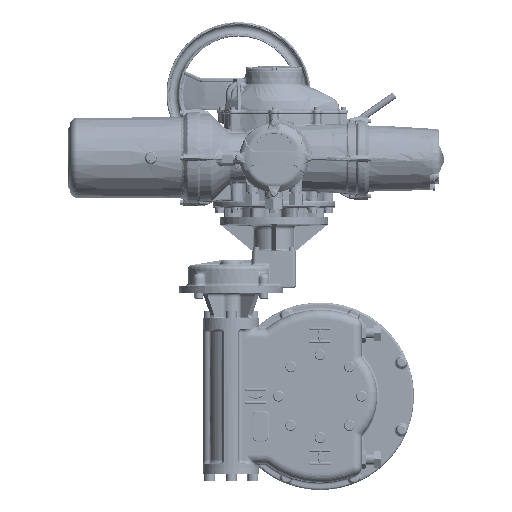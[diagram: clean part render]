
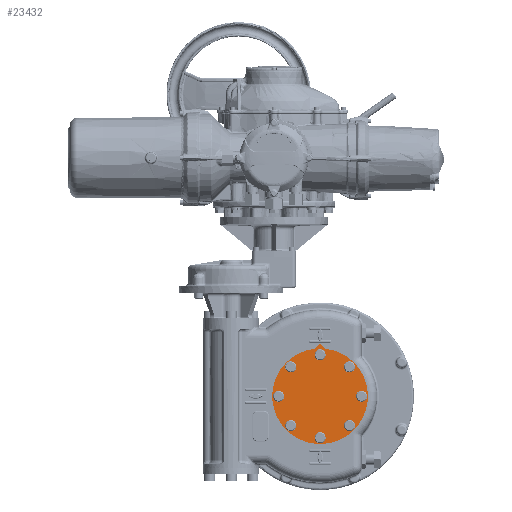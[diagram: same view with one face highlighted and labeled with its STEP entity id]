
A CAD part, front view. The second image highlights one B-rep face of the part: STEP entity #23432.
In plain terms, the highlighted planar face has unit normal (0, -1, 0).
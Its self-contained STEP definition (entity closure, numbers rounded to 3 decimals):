
#23432 = ADVANCED_FACE( '', ( #49136, #49137, #49138, #49139, #49140, #49141, #49142, #49143, #49144 ), #49145, .F. );
#49136 = FACE_BOUND( '', #377415, .T. );
#49137 = FACE_BOUND( '', #377416, .T. );
#49138 = FACE_BOUND( '', #377417, .T. );
#49139 = FACE_BOUND( '', #377418, .T. );
#49140 = FACE_BOUND( '', #377419, .T. );
#49141 = FACE_BOUND( '', #377420, .T. );
#49142 = FACE_BOUND( '', #377421, .T. );
#49143 = FACE_BOUND( '', #377422, .T. );
#49144 = FACE_OUTER_BOUND( '', #377423, .T. );
#49145 = PLANE( '', #377424 );
#377415 = EDGE_LOOP( '', ( #507896 ) );
#377416 = EDGE_LOOP( '', ( #507897 ) );
#377417 = EDGE_LOOP( '', ( #507898 ) );
#377418 = EDGE_LOOP( '', ( #507899 ) );
#377419 = EDGE_LOOP( '', ( #507900 ) );
#377420 = EDGE_LOOP( '', ( #507901 ) );
#377421 = EDGE_LOOP( '', ( #507902 ) );
#377422 = EDGE_LOOP( '', ( #507903 ) );
#377423 = EDGE_LOOP( '', ( #507904, #507905, #507906 ) );
#377424 = AXIS2_PLACEMENT_3D( '', #507907, #507908, #507909 );
#507896 = ORIENTED_EDGE( '', *, *, #546220, .F. );
#507897 = ORIENTED_EDGE( '', *, *, #522055, .F. );
#507898 = ORIENTED_EDGE( '', *, *, #544247, .F. );
#507899 = ORIENTED_EDGE( '', *, *, #544518, .F. );
#507900 = ORIENTED_EDGE( '', *, *, #523194, .F. );
#507901 = ORIENTED_EDGE( '', *, *, #534531, .F. );
#507902 = ORIENTED_EDGE( '', *, *, #546658, .F. );
#507903 = ORIENTED_EDGE( '', *, *, #545641, .F. );
#507904 = ORIENTED_EDGE( '', *, *, #536386, .F. );
#507905 = ORIENTED_EDGE( '', *, *, #543410, .F. );
#507906 = ORIENTED_EDGE( '', *, *, #546659, .F. );
#507907 = CARTESIAN_POINT( '', ( 127.755, -70.25, -660.69 ) );
#507908 = DIRECTION( '', ( 0., 1., 0. ) );
#507909 = DIRECTION( '', ( 0., 0., -1. ) );
#522055 = EDGE_CURVE( '', #552772, #552772, #552773, .T. );
#523194 = EDGE_CURVE( '', #554751, #554751, #554752, .T. );
#534531 = EDGE_CURVE( '', #572584, #572584, #572585, .T. );
#536386 = EDGE_CURVE( '', #575204, #575206, #575207, .T. );
#543410 = EDGE_CURVE( '', #584056, #575204, #584058, .T. );
#544247 = EDGE_CURVE( '', #585026, #585026, #585027, .T. );
#544518 = EDGE_CURVE( '', #585330, #585330, #585331, .T. );
#545641 = EDGE_CURVE( '', #586581, #586581, #586582, .T. );
#546220 = EDGE_CURVE( '', #587205, #587205, #587206, .T. );
#546658 = EDGE_CURVE( '', #587669, #587669, #587670, .T. );
#546659 = EDGE_CURVE( '', #575206, #584056, #587671, .T. );
#552772 = VERTEX_POINT( '', #610196 );
#552773 = CIRCLE( '', #610197, 15.35 );
#554751 = VERTEX_POINT( '', #621550 );
#554752 = CIRCLE( '', #621551, 15.35 );
#572584 = VERTEX_POINT( '', #716724 );
#572585 = CIRCLE( '', #716725, 15.35 );
#575204 = VERTEX_POINT( '', #730949 );
#575206 = VERTEX_POINT( '', #730952 );
#575207 = CIRCLE( '', #730953, 132.5 );
#584056 = VERTEX_POINT( '', #783043 );
#584058 = LINE( '', #783046, #783047 );
#585026 = VERTEX_POINT( '', #787929 );
#585027 = CIRCLE( '', #787930, 15.35 );
#585330 = VERTEX_POINT( '', #789558 );
#585331 = CIRCLE( '', #789559, 15.35 );
#586581 = VERTEX_POINT( '', #794882 );
#586582 = CIRCLE( '', #794883, 15.35 );
#587205 = VERTEX_POINT( '', #797560 );
#587206 = CIRCLE( '', #797561, 15.35 );
#587669 = VERTEX_POINT( '', #799588 );
#587670 = CIRCLE( '', #799589, 15.35 );
#587671 = LINE( '', #799590, #799591 );
#610196 = CARTESIAN_POINT( '', ( 116.901, -70.25, -764.836 ) );
#610197 = AXIS2_PLACEMENT_3D( '', #808317, #808318, #808319 );
#621550 = CARTESIAN_POINT( '', ( 209.072, -70.25, -594.723 ) );
#621551 = AXIS2_PLACEMENT_3D( '', #809660, #809661, #809662 );
#716724 = CARTESIAN_POINT( '', ( 193.722, -70.25, -742.007 ) );
#716725 = AXIS2_PLACEMENT_3D( '', #821797, #821798, #821799 );
#730949 = CARTESIAN_POINT( '', ( 140.91, -70.25, -528.845 ) );
#730952 = CARTESIAN_POINT( '', ( 114.6, -70.25, -528.845 ) );
#730953 = AXIS2_PLACEMENT_3D( '', #823649, #823650, #823651 );
#783043 = CARTESIAN_POINT( '', ( 127.755, -70.25, -515.69 ) );
#783046 = CARTESIAN_POINT( '', ( 127.755, -70.25, -515.69 ) );
#783047 = VECTOR( '', #830310, 1000. );
#787929 = CARTESIAN_POINT( '', ( 231.901, -70.25, -671.544 ) );
#787930 = AXIS2_PLACEMENT_3D( '', #830987, #830988, #830989 );
#789558 = CARTESIAN_POINT( '', ( 138.609, -70.25, -556.544 ) );
#789559 = AXIS2_PLACEMENT_3D( '', #831227, #831228, #831229 );
#794882 = CARTESIAN_POINT( '', ( 23.609, -70.25, -649.836 ) );
#794883 = AXIS2_PLACEMENT_3D( '', #832135, #832136, #832137 );
#797560 = CARTESIAN_POINT( '', ( 61.788, -70.25, -579.373 ) );
#797561 = AXIS2_PLACEMENT_3D( '', #832530, #832531, #832532 );
#799588 = CARTESIAN_POINT( '', ( 46.438, -70.25, -726.657 ) );
#799589 = AXIS2_PLACEMENT_3D( '', #832767, #832768, #832769 );
#799590 = CARTESIAN_POINT( '', ( 114.6, -70.25, -528.845 ) );
#799591 = VECTOR( '', #832770, 1000. );
#808317 = CARTESIAN_POINT( '', ( 127.755, -70.25, -775.69 ) );
#808318 = DIRECTION( '', ( 0., -1., 0. ) );
#808319 = DIRECTION( '', ( -0.707, 0., 0.707 ) );
#809660 = CARTESIAN_POINT( '', ( 209.072, -70.25, -579.373 ) );
#809661 = DIRECTION( '', ( 0., -1., 0. ) );
#809662 = DIRECTION( '', ( 0., 0., -1. ) );
#821797 = CARTESIAN_POINT( '', ( 209.072, -70.25, -742.007 ) );
#821798 = DIRECTION( '', ( 0., -1., 0. ) );
#821799 = DIRECTION( '', ( -1., 0., 0. ) );
#823649 = CARTESIAN_POINT( '', ( 127.755, -70.25, -660.69 ) );
#823650 = DIRECTION( '', ( 0., 1., 0. ) );
#823651 = DIRECTION( '', ( 0., 0., 1. ) );
#830310 = DIRECTION( '', ( 0.707, 0., -0.707 ) );
#830987 = CARTESIAN_POINT( '', ( 242.755, -70.25, -660.69 ) );
#830988 = DIRECTION( '', ( 0., -1., 0. ) );
#830989 = DIRECTION( '', ( -0.707, 0., -0.707 ) );
#831227 = CARTESIAN_POINT( '', ( 127.755, -70.25, -545.69 ) );
#831228 = DIRECTION( '', ( 0., -1., 0. ) );
#831229 = DIRECTION( '', ( 0.707, 0., -0.707 ) );
#832135 = CARTESIAN_POINT( '', ( 12.755, -70.25, -660.69 ) );
#832136 = DIRECTION( '', ( 0., -1., 0. ) );
#832137 = DIRECTION( '', ( 0.707, 0., 0.707 ) );
#832530 = CARTESIAN_POINT( '', ( 46.438, -70.25, -579.373 ) );
#832531 = DIRECTION( '', ( 0., -1., 0. ) );
#832532 = DIRECTION( '', ( 1., 0., 0. ) );
#832767 = CARTESIAN_POINT( '', ( 46.438, -70.25, -742.007 ) );
#832768 = DIRECTION( '', ( 0., -1., 0. ) );
#832769 = DIRECTION( '', ( 0., 0., 1. ) );
#832770 = DIRECTION( '', ( 0.707, 0., 0.707 ) );
